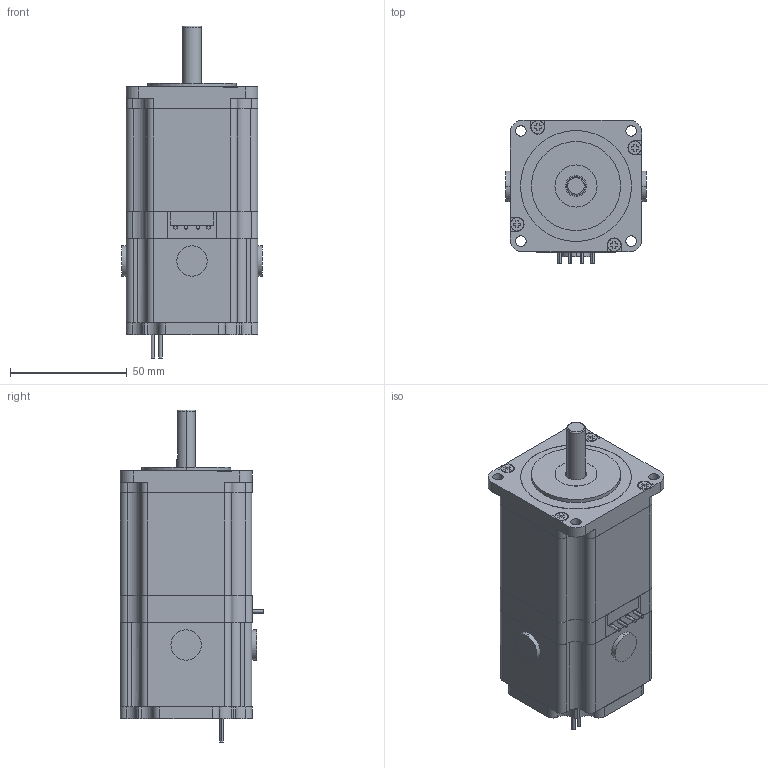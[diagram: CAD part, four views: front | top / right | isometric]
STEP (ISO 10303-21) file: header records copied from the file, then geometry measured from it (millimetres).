
FILE_DESCRIPTION (( 'STEP AP203' ), '1' );
FILE_NAME ('UB57D24-D44-865.STEP', '2020-06-30T07:23:27', ( '' ), ( '' ), 'SwSTEP 2.0', 'SolidWorks 2018', '' );
FILE_SCHEMA (( 'CONFIG_CONTROL_DESIGN' ));
Length unit declared in the file: millimetre
Products named in the file (1): UB57D24-D44-865
Bounding box: 60.2 x 61.4 x 142 mm (x, y, z)
Volume: 307383.1 mm3; surface area: 30379.6 mm2
Topology: 2 solids, 3 shells, 290 faces, 755 edges, 497 vertices
Faces by surface type: plane 166, cylinder 121, bspline 3
Entity records: 9071 total; most frequent: CARTESIAN_POINT 1621, DIRECTION 1588, ORIENTED_EDGE 1510, EDGE_CURVE 755, AXIS2_PLACEMENT_3D 550, VERTEX_POINT 497, LINE 488, VECTOR 488
